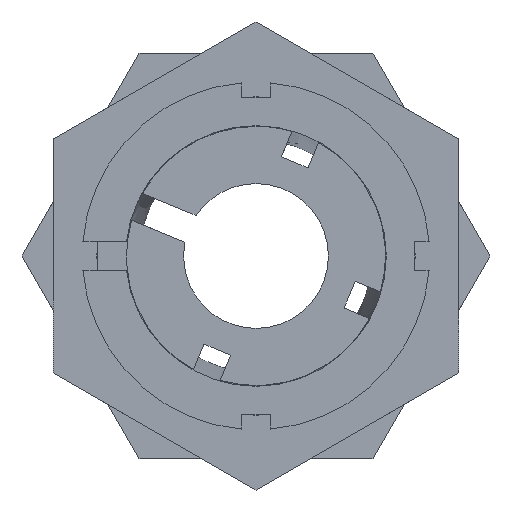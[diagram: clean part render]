
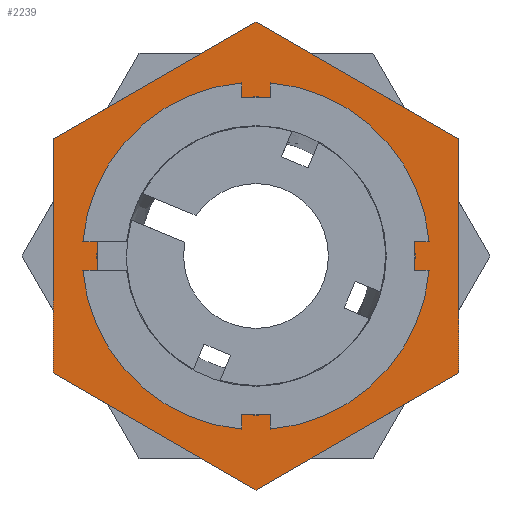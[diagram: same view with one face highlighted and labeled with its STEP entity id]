
A CAD part, left-side view. The second image highlights one B-rep face of the part: STEP entity #2239.
In plain terms, the highlighted planar face has unit normal (-1, 0, 0).
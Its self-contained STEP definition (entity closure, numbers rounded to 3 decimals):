
#371 = CARTESIAN_POINT ( 'NONE',  ( 9.52, 50., 0. ) ) ;
#372 = PLANE ( 'NONE',  #2122 ) ;
#374 = DIRECTION ( 'NONE',  ( 1., 0., 0. ) ) ;
#375 = DIRECTION ( 'NONE',  ( 0., 0., -1. ) ) ;
#551 = FACE_BOUND ( 'NONE', #655, .T. ) ;
#558 = FACE_OUTER_BOUND ( 'NONE', #633, .T. ) ;
#633 = EDGE_LOOP ( 'NONE', ( #943, #942, #941, #940, #939, #938 ) ) ;
#655 = EDGE_LOOP ( 'NONE', ( #945, #944 ) ) ;
#938 = ORIENTED_EDGE ( 'NONE', *, *, #1917, .T. ) ;
#939 = ORIENTED_EDGE ( 'NONE', *, *, #1913, .T. ) ;
#940 = ORIENTED_EDGE ( 'NONE', *, *, #1914, .T. ) ;
#941 = ORIENTED_EDGE ( 'NONE', *, *, #1899, .T. ) ;
#942 = ORIENTED_EDGE ( 'NONE', *, *, #1912, .T. ) ;
#943 = ORIENTED_EDGE ( 'NONE', *, *, #1916, .T. ) ;
#944 = ORIENTED_EDGE ( 'NONE', *, *, #1908, .F. ) ;
#945 = ORIENTED_EDGE ( 'NONE', *, *, #1915, .F. ) ;
#1235 = VERTEX_POINT ( 'NONE', #1281 ) ;
#1236 = VERTEX_POINT ( 'NONE', #1500 ) ;
#1237 = VERTEX_POINT ( 'NONE', #1501 ) ;
#1238 = VERTEX_POINT ( 'NONE', #1498 ) ;
#1239 = VERTEX_POINT ( 'NONE', #1499 ) ;
#1281 = CARTESIAN_POINT ( 'NONE',  ( 9.52, 0., 5.501 ) ) ;
#1391 = CARTESIAN_POINT ( 'NONE',  ( 9.52, -7., 4.041 ) ) ;
#1392 = CARTESIAN_POINT ( 'NONE',  ( 9.52, -7., -4.041 ) ) ;
#1394 = CARTESIAN_POINT ( 'NONE',  ( 9.52, 0., -8.083 ) ) ;
#1498 = CARTESIAN_POINT ( 'NONE',  ( 9.52, 7., 4.041 ) ) ;
#1499 = CARTESIAN_POINT ( 'NONE',  ( 9.52, 0., -5.501 ) ) ;
#1500 = CARTESIAN_POINT ( 'NONE',  ( 9.52, 7., -4.041 ) ) ;
#1501 = CARTESIAN_POINT ( 'NONE',  ( 9.52, 0., 8.083 ) ) ;
#1642 = VERTEX_POINT ( 'NONE', #1394 ) ;
#1644 = VERTEX_POINT ( 'NONE', #1392 ) ;
#1646 = VERTEX_POINT ( 'NONE', #1391 ) ;
#1840 = DIRECTION ( 'NONE',  ( 0., 0.866, 0.5 ) ) ;
#1841 = CARTESIAN_POINT ( 'NONE',  ( 9.52, 0., 8.083 ) ) ;
#1843 = DIRECTION ( 'NONE',  ( 0., 0.866, -0.5 ) ) ;
#1844 = CARTESIAN_POINT ( 'NONE',  ( 9.52, 7., 4.041 ) ) ;
#1845 = DIRECTION ( 'NONE',  ( 0., 0., 1. ) ) ;
#1847 = DIRECTION ( 'NONE',  ( -1., 0., 0. ) ) ;
#1848 = DIRECTION ( 'NONE',  ( 0., -0.866, 0.5 ) ) ;
#1849 = CARTESIAN_POINT ( 'NONE',  ( 9.52, -7., -4.041 ) ) ;
#1850 = DIRECTION ( 'NONE',  ( 0., 0., 1. ) ) ;
#1851 = CARTESIAN_POINT ( 'NONE',  ( 9.52, -7., 4.041 ) ) ;
#1852 = DIRECTION ( 'NONE',  ( 0., 0., -1. ) ) ;
#1853 = CARTESIAN_POINT ( 'NONE',  ( 9.52, 7., -4.041 ) ) ;
#1855 = CARTESIAN_POINT ( 'NONE',  ( 9.52, 0., 0. ) ) ;
#1862 = DIRECTION ( 'NONE',  ( 0., 0., 1. ) ) ;
#1863 = DIRECTION ( 'NONE',  ( -1., 0., 0. ) ) ;
#1867 = CARTESIAN_POINT ( 'NONE',  ( 9.52, 0., 0. ) ) ;
#1888 = DIRECTION ( 'NONE',  ( 0., -0.866, -0.5 ) ) ;
#1889 = CARTESIAN_POINT ( 'NONE',  ( 9.52, 0., -8.083 ) ) ;
#1899 = EDGE_CURVE ( 'NONE', #1236, #1642, #2478, .T. ) ;
#1908 = EDGE_CURVE ( 'NONE', #1239, #1235, #2455, .T. ) ;
#1912 = EDGE_CURVE ( 'NONE', #1238, #1236, #2449, .T. ) ;
#1913 = EDGE_CURVE ( 'NONE', #1644, #1646, #2447, .T. ) ;
#1914 = EDGE_CURVE ( 'NONE', #1642, #1644, #2445, .T. ) ;
#1915 = EDGE_CURVE ( 'NONE', #1235, #1239, #2439, .T. ) ;
#1916 = EDGE_CURVE ( 'NONE', #1237, #1238, #2452, .T. ) ;
#1917 = EDGE_CURVE ( 'NONE', #1646, #1237, #2438, .T. ) ;
#2052 = AXIS2_PLACEMENT_3D ( 'NONE', #1867, #1863, #1862 ) ;
#2055 = AXIS2_PLACEMENT_3D ( 'NONE', #1855, #1847, #1845 ) ;
#2122 = AXIS2_PLACEMENT_3D ( 'NONE', #371, #374, #375 ) ;
#2239 = ADVANCED_FACE ( 'NONE', ( #551, #558 ), #372, .F. ) ;
#2365 = VECTOR ( 'NONE', #1843, 1000. ) ;
#2437 = VECTOR ( 'NONE', #1840, 1000. ) ;
#2438 = LINE ( 'NONE', #1841, #2437 ) ;
#2439 = CIRCLE ( 'NONE', #2055, 5.501 ) ;
#2443 = VECTOR ( 'NONE', #1848, 1000. ) ;
#2445 = LINE ( 'NONE', #1849, #2443 ) ;
#2446 = VECTOR ( 'NONE', #1850, 1000. ) ;
#2447 = LINE ( 'NONE', #1851, #2446 ) ;
#2448 = VECTOR ( 'NONE', #1852, 1000. ) ;
#2449 = LINE ( 'NONE', #1853, #2448 ) ;
#2452 = LINE ( 'NONE', #1844, #2365 ) ;
#2455 = CIRCLE ( 'NONE', #2052, 5.501 ) ;
#2477 = VECTOR ( 'NONE', #1888, 1000. ) ;
#2478 = LINE ( 'NONE', #1889, #2477 ) ;
